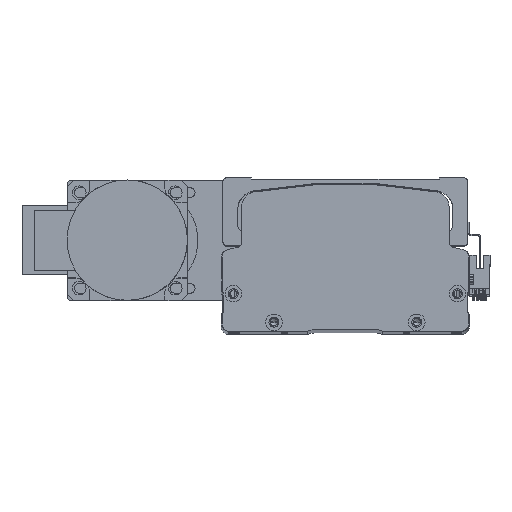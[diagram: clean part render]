
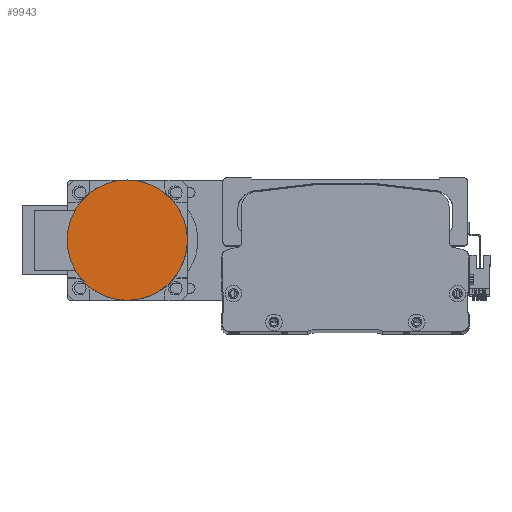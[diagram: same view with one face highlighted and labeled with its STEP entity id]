
A CAD part, top view. The second image highlights one B-rep face of the part: STEP entity #9943.
In plain terms, the highlighted planar face has unit normal (0, 0, 1) as drawn and (0, -1, 0) by its records, which use the part's own axes.
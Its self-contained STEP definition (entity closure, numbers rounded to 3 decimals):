
#8912 = CARTESIAN_POINT ( 'NONE',  ( 0., -27., 0. ) ) ;
#9291 = DIRECTION ( 'NONE',  ( 0., -1., 0. ) ) ;
#9943 = ADVANCED_FACE ( 'NONE', ( #44031 ), #59845, .F. ) ;
#13699 = DIRECTION ( 'NONE',  ( 0., 0., -1. ) ) ;
#14720 = AXIS2_PLACEMENT_3D ( 'NONE', #38052, #9291, #42883 ) ;
#17347 = EDGE_LOOP ( 'NONE', ( #56987, #19852 ) ) ;
#19852 = ORIENTED_EDGE ( 'NONE', *, *, #44700, .T. ) ;
#21586 = DIRECTION ( 'NONE',  ( 0., 1., 0. ) ) ;
#27701 = VERTEX_POINT ( 'NONE', #47362 ) ;
#35597 = CIRCLE ( 'NONE', #14720, 40. ) ;
#38052 = CARTESIAN_POINT ( 'NONE',  ( 0., -27., 0. ) ) ;
#41878 = AXIS2_PLACEMENT_3D ( 'NONE', #50401, #21586, #55192 ) ;
#42082 = AXIS2_PLACEMENT_3D ( 'NONE', #8912, #42481, #13699 ) ;
#42481 = DIRECTION ( 'NONE',  ( 0., -1., 0. ) ) ;
#42883 = DIRECTION ( 'NONE',  ( 0., 0., -1. ) ) ;
#44031 = FACE_OUTER_BOUND ( 'NONE', #17347, .T. ) ;
#44700 = EDGE_CURVE ( 'NONE', #27701, #61214, #35597, .T. ) ;
#47362 = CARTESIAN_POINT ( 'NONE',  ( 0., -27., 40. ) ) ;
#47760 = CIRCLE ( 'NONE', #42082, 40. ) ;
#50401 = CARTESIAN_POINT ( 'NONE',  ( 0., -27., 0. ) ) ;
#55192 = DIRECTION ( 'NONE',  ( 0., 0., 1. ) ) ;
#56987 = ORIENTED_EDGE ( 'NONE', *, *, #58533, .T. ) ;
#58533 = EDGE_CURVE ( 'NONE', #61214, #27701, #47760, .T. ) ;
#59454 = CARTESIAN_POINT ( 'NONE',  ( 0., -27., -40. ) ) ;
#59845 = PLANE ( 'NONE',  #41878 ) ;
#61214 = VERTEX_POINT ( 'NONE', #59454 ) ;
